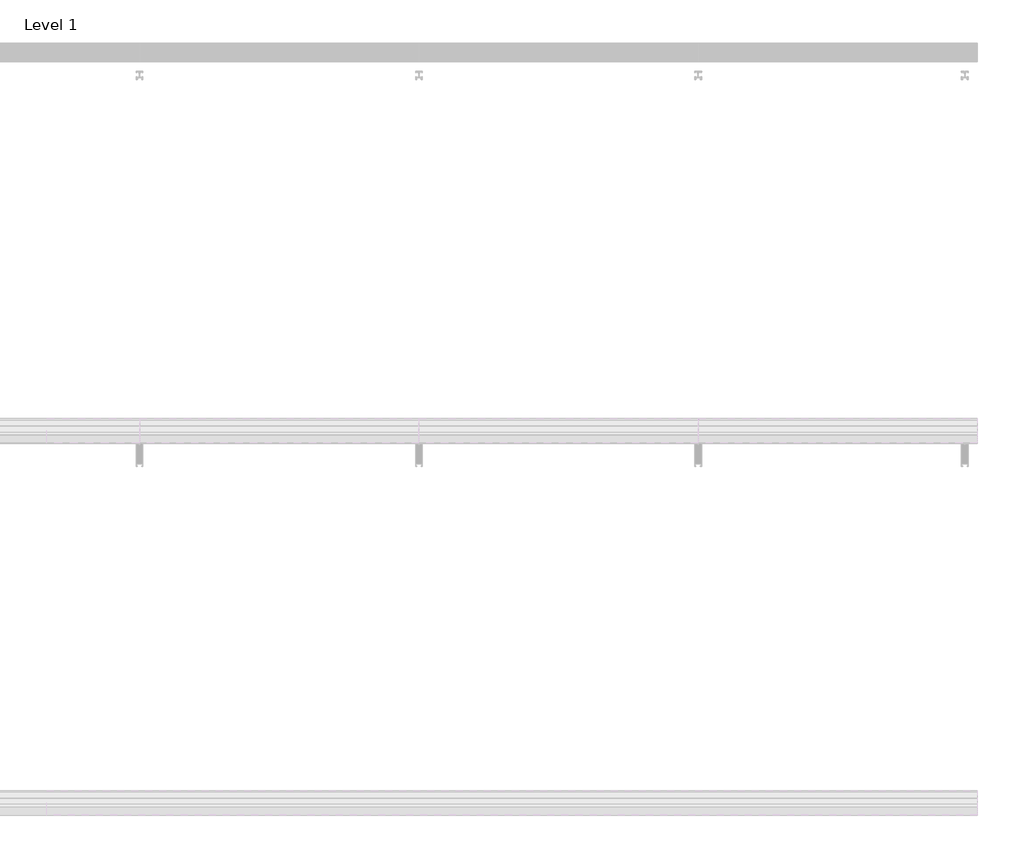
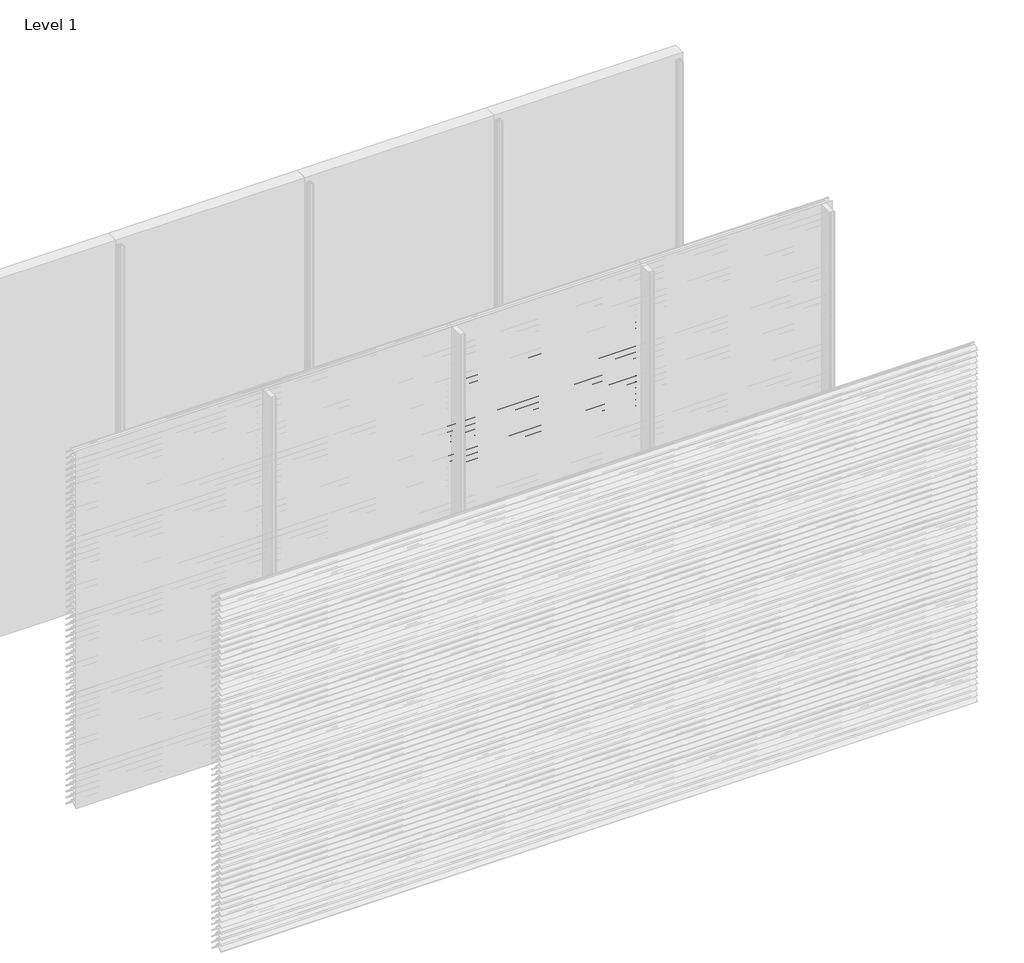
# One storey, part 31 of 173: 17 proxies.
"""IFC4 building model written with IfcOpenShell, lengths in millimetres."""

from ifc_helpers import new_model, si_unit, point, frame, frame_2d, origin, place, context, project, spatial, polyline, circle_curve, trimmed, segment, composite_curve, outline, extrude, element, save

model = new_model("IFC4")

# Units and contexts
model_context = context("Model", 3, world=origin())
ifc_project = project(units=[si_unit("LENGTHUNIT", "METRE", prefix="MILLI")], contexts=[model_context])

# Site, building, storey
site = spatial("IfcSite", under=ifc_project)
building = spatial("IfcBuilding", under=site)
storey = spatial("IfcBuildingStorey", under=building, Name="Level 1", Elevation=0.0)

# Proxies
placement = place(None, origin())
element("IfcBuildingElementProxy", 1, Name="Wall Sweeps", at=placement, inside=storey, context=model_context, shape_type="SweptSolid", body=[
    extrude(outline(composite_curve([segment(polyline([(-47998.0, 2459.1474905), (-47998.0, 2461.6227417)]), True, "CONTINUOUS"), segment(trimmed(circle_curve(frame_2d((-47951.2682172, 2416.2200208)), 65.1557103), [point((-47998.0, 2461.6227417))], [point((-47954.4014323, 2481.3003524))], False, "CARTESIAN"), True, "CONTINUOUS"), segment(polyline([(-47954.4014323, 2481.3003524), (-47934.8315836, 2481.3003524)]), True, "CONTINUOUS"), segment(trimmed(circle_curve(frame_2d((-47732.7329489, 2628.5533172)), 250.0545817), [point((-47934.8315836, 2481.3003524))], [point((-47941.4452143, 2490.8344583))], False, "CARTESIAN"), True, "CONTINUOUS"), segment(trimmed(circle_curve(frame_2d((-47953.2981792, 2485.1737835)), 13.1352966), [point((-47941.4452143, 2490.8344583))], [point((-47953.8171475, 2498.298824))], True, "CARTESIAN"), True, "CONTINUOUS"), segment(polyline([(-47953.8171475, 2498.298824), (-47953.8171475, 2500.0)]), True, "CONTINUOUS"), segment(trimmed(circle_curve(frame_2d((-47953.2981792, 2485.1737835)), 14.8352966), [point((-47953.8171475, 2500.0))], [point((-47939.9637661, 2491.6760487))], False, "CARTESIAN"), True, "CONTINUOUS"), segment(trimmed(circle_curve(frame_2d((-47732.7329489, 2628.5533172)), 248.3545817), [point((-47939.9637661, 2491.6760487))], [point((-47873.8787895, 2424.2059416))], True, "CARTESIAN"), True, "CONTINUOUS"), segment(trimmed(circle_curve(frame_2d((-47883.8147537, 2411.6649442)), 16.0), [point((-47873.8787895, 2424.2059416))], [point((-47867.8648347, 2410.4))], False, "CARTESIAN"), True, "CONTINUOUS"), segment(polyline([(-47867.8648347, 2410.4), (-47869.6712069, 2410.4)]), True, "CONTINUOUS"), segment(trimmed(circle_curve(frame_2d((-47883.8147537, 2411.6649442)), 14.2), [point((-47869.6712069, 2410.4))], [point((-47874.9518628, 2422.7594998))], True, "CARTESIAN"), True, "CONTINUOUS"), segment(trimmed(circle_curve(frame_2d((-47732.7329489, 2628.5533172)), 250.1545817), [point((-47874.9518628, 2422.7594998))], [point((-47933.7064024, 2479.6003524))], False, "CARTESIAN"), True, "CONTINUOUS"), segment(polyline([(-47933.7064024, 2479.6003524), (-47954.3602632, 2479.6003524)]), True, "CONTINUOUS"), segment(trimmed(circle_curve(frame_2d((-47951.2682172, 2416.2200208)), 63.4557103), [point((-47954.3602632, 2479.6003524))], [point((-47998.0, 2459.1474905))], True, "CARTESIAN"), True, "CONTINUOUS")], self_intersect=False)), frame((3000.0, 0.0, 0.0), z_axis=(1.0, 0.0, 0.0), x_axis=(0.0, 1.0, 0.0)), (0.0, 0.0, 1.0), 1500.0),
])
element("IfcBuildingElementProxy", 2, Name="Wall Sweeps", at=placement, inside=storey, context=model_context, shape_type="SweptSolid", body=[
    extrude(outline(composite_curve([segment(polyline([(-47998.0, 2409.1474905), (-47998.0, 2411.6227417)]), True, "CONTINUOUS"), segment(trimmed(circle_curve(frame_2d((-47951.2682172, 2366.2200208)), 65.1557103), [point((-47998.0, 2411.6227417))], [point((-47954.4014323, 2431.3003524))], False, "CARTESIAN"), True, "CONTINUOUS"), segment(polyline([(-47954.4014323, 2431.3003524), (-47934.8315836, 2431.3003524)]), True, "CONTINUOUS"), segment(trimmed(circle_curve(frame_2d((-47732.7329489, 2578.5533172)), 250.0545817), [point((-47934.8315836, 2431.3003524))], [point((-47941.4452143, 2440.8344583))], False, "CARTESIAN"), True, "CONTINUOUS"), segment(trimmed(circle_curve(frame_2d((-47953.2981792, 2435.1737835)), 13.1352966), [point((-47941.4452143, 2440.8344583))], [point((-47953.8171475, 2448.298824))], True, "CARTESIAN"), True, "CONTINUOUS"), segment(polyline([(-47953.8171475, 2448.298824), (-47953.8171475, 2450.0)]), True, "CONTINUOUS"), segment(trimmed(circle_curve(frame_2d((-47953.2981792, 2435.1737835)), 14.8352966), [point((-47953.8171475, 2450.0))], [point((-47939.9637661, 2441.6760487))], False, "CARTESIAN"), True, "CONTINUOUS"), segment(trimmed(circle_curve(frame_2d((-47732.7329489, 2578.5533172)), 248.3545817), [point((-47939.9637661, 2441.6760487))], [point((-47873.8787895, 2374.2059416))], True, "CARTESIAN"), True, "CONTINUOUS"), segment(trimmed(circle_curve(frame_2d((-47883.8147537, 2361.6649442)), 16.0), [point((-47873.8787895, 2374.2059416))], [point((-47867.8648347, 2360.4))], False, "CARTESIAN"), True, "CONTINUOUS"), segment(polyline([(-47867.8648347, 2360.4), (-47869.6712069, 2360.4)]), True, "CONTINUOUS"), segment(trimmed(circle_curve(frame_2d((-47883.8147537, 2361.6649442)), 14.2), [point((-47869.6712069, 2360.4))], [point((-47874.9518628, 2372.7594998))], True, "CARTESIAN"), True, "CONTINUOUS"), segment(trimmed(circle_curve(frame_2d((-47732.7329489, 2578.5533172)), 250.1545817), [point((-47874.9518628, 2372.7594998))], [point((-47933.7064024, 2429.6003524))], False, "CARTESIAN"), True, "CONTINUOUS"), segment(polyline([(-47933.7064024, 2429.6003524), (-47954.3602632, 2429.6003524)]), True, "CONTINUOUS"), segment(trimmed(circle_curve(frame_2d((-47951.2682172, 2366.2200208)), 63.4557103), [point((-47954.3602632, 2429.6003524))], [point((-47998.0, 2409.1474905))], True, "CARTESIAN"), True, "CONTINUOUS")], self_intersect=False)), frame((3000.0, 0.0, 0.0), z_axis=(1.0, 0.0, 0.0), x_axis=(0.0, 1.0, 0.0)), (0.0, 0.0, 1.0), 1500.0),
])
element("IfcBuildingElementProxy", 3, Name="Wall Sweeps", at=placement, inside=storey, context=model_context, shape_type="SweptSolid", body=[
    extrude(outline(composite_curve([segment(polyline([(-47998.0, 2359.1474905), (-47998.0, 2361.6227417)]), True, "CONTINUOUS"), segment(trimmed(circle_curve(frame_2d((-47951.2682172, 2316.2200208)), 65.1557103), [point((-47998.0, 2361.6227417))], [point((-47954.4014323, 2381.3003524))], False, "CARTESIAN"), True, "CONTINUOUS"), segment(polyline([(-47954.4014323, 2381.3003524), (-47934.8315836, 2381.3003524)]), True, "CONTINUOUS"), segment(trimmed(circle_curve(frame_2d((-47732.7329489, 2528.5533172)), 250.0545817), [point((-47934.8315836, 2381.3003524))], [point((-47941.4452143, 2390.8344583))], False, "CARTESIAN"), True, "CONTINUOUS"), segment(trimmed(circle_curve(frame_2d((-47953.2981792, 2385.1737835)), 13.1352966), [point((-47941.4452143, 2390.8344583))], [point((-47953.8171475, 2398.298824))], True, "CARTESIAN"), True, "CONTINUOUS"), segment(polyline([(-47953.8171475, 2398.298824), (-47953.8171475, 2400.0)]), True, "CONTINUOUS"), segment(trimmed(circle_curve(frame_2d((-47953.2981792, 2385.1737835)), 14.8352966), [point((-47953.8171475, 2400.0))], [point((-47939.9637661, 2391.6760487))], False, "CARTESIAN"), True, "CONTINUOUS"), segment(trimmed(circle_curve(frame_2d((-47732.7329489, 2528.5533172)), 248.3545817), [point((-47939.9637661, 2391.6760487))], [point((-47873.8787895, 2324.2059416))], True, "CARTESIAN"), True, "CONTINUOUS"), segment(trimmed(circle_curve(frame_2d((-47883.8147537, 2311.6649442)), 16.0), [point((-47873.8787895, 2324.2059416))], [point((-47867.8648347, 2310.4))], False, "CARTESIAN"), True, "CONTINUOUS"), segment(polyline([(-47867.8648347, 2310.4), (-47869.6712069, 2310.4)]), True, "CONTINUOUS"), segment(trimmed(circle_curve(frame_2d((-47883.8147537, 2311.6649442)), 14.2), [point((-47869.6712069, 2310.4))], [point((-47874.9518628, 2322.7594998))], True, "CARTESIAN"), True, "CONTINUOUS"), segment(trimmed(circle_curve(frame_2d((-47732.7329489, 2528.5533172)), 250.1545817), [point((-47874.9518628, 2322.7594998))], [point((-47933.7064024, 2379.6003524))], False, "CARTESIAN"), True, "CONTINUOUS"), segment(polyline([(-47933.7064024, 2379.6003524), (-47954.3602632, 2379.6003524)]), True, "CONTINUOUS"), segment(trimmed(circle_curve(frame_2d((-47951.2682172, 2316.2200208)), 63.4557103), [point((-47954.3602632, 2379.6003524))], [point((-47998.0, 2359.1474905))], True, "CARTESIAN"), True, "CONTINUOUS")], self_intersect=False)), frame((3000.0, 0.0, 0.0), z_axis=(1.0, 0.0, 0.0), x_axis=(0.0, 1.0, 0.0)), (0.0, 0.0, 1.0), 1500.0),
])
element("IfcBuildingElementProxy", 4, Name="Wall Sweeps", at=placement, inside=storey, context=model_context, shape_type="SweptSolid", body=[
    extrude(outline(composite_curve([segment(polyline([(-47998.0, 2309.1474905), (-47998.0, 2311.6227417)]), True, "CONTINUOUS"), segment(trimmed(circle_curve(frame_2d((-47951.2682172, 2266.2200208)), 65.1557103), [point((-47998.0, 2311.6227417))], [point((-47954.4014323, 2331.3003524))], False, "CARTESIAN"), True, "CONTINUOUS"), segment(polyline([(-47954.4014323, 2331.3003524), (-47934.8315836, 2331.3003524)]), True, "CONTINUOUS"), segment(trimmed(circle_curve(frame_2d((-47732.7329489, 2478.5533172)), 250.0545817), [point((-47934.8315836, 2331.3003524))], [point((-47941.4452143, 2340.8344583))], False, "CARTESIAN"), True, "CONTINUOUS"), segment(trimmed(circle_curve(frame_2d((-47953.2981792, 2335.1737835)), 13.1352966), [point((-47941.4452143, 2340.8344583))], [point((-47953.8171475, 2348.298824))], True, "CARTESIAN"), True, "CONTINUOUS"), segment(polyline([(-47953.8171475, 2348.298824), (-47953.8171475, 2350.0)]), True, "CONTINUOUS"), segment(trimmed(circle_curve(frame_2d((-47953.2981792, 2335.1737835)), 14.8352966), [point((-47953.8171475, 2350.0))], [point((-47939.9637661, 2341.6760487))], False, "CARTESIAN"), True, "CONTINUOUS"), segment(trimmed(circle_curve(frame_2d((-47732.7329489, 2478.5533172)), 248.3545817), [point((-47939.9637661, 2341.6760487))], [point((-47873.8787895, 2274.2059416))], True, "CARTESIAN"), True, "CONTINUOUS"), segment(trimmed(circle_curve(frame_2d((-47883.8147537, 2261.6649442)), 16.0), [point((-47873.8787895, 2274.2059416))], [point((-47867.8648347, 2260.4))], False, "CARTESIAN"), True, "CONTINUOUS"), segment(polyline([(-47867.8648347, 2260.4), (-47869.6712069, 2260.4)]), True, "CONTINUOUS"), segment(trimmed(circle_curve(frame_2d((-47883.8147537, 2261.6649442)), 14.2), [point((-47869.6712069, 2260.4))], [point((-47874.9518628, 2272.7594998))], True, "CARTESIAN"), True, "CONTINUOUS"), segment(trimmed(circle_curve(frame_2d((-47732.7329489, 2478.5533172)), 250.1545817), [point((-47874.9518628, 2272.7594998))], [point((-47933.7064024, 2329.6003524))], False, "CARTESIAN"), True, "CONTINUOUS"), segment(polyline([(-47933.7064024, 2329.6003524), (-47954.3602632, 2329.6003524)]), True, "CONTINUOUS"), segment(trimmed(circle_curve(frame_2d((-47951.2682172, 2266.2200208)), 63.4557103), [point((-47954.3602632, 2329.6003524))], [point((-47998.0, 2309.1474905))], True, "CARTESIAN"), True, "CONTINUOUS")], self_intersect=False)), frame((3000.0, 0.0, 0.0), z_axis=(1.0, 0.0, 0.0), x_axis=(0.0, 1.0, 0.0)), (0.0, 0.0, 1.0), 1500.0),
])
element("IfcBuildingElementProxy", 5, Name="Wall Sweeps", at=placement, inside=storey, context=model_context, shape_type="SweptSolid", body=[
    extrude(outline(composite_curve([segment(polyline([(-47998.0, 2259.1474905), (-47998.0, 2261.6227417)]), True, "CONTINUOUS"), segment(trimmed(circle_curve(frame_2d((-47951.2682172, 2216.2200208)), 65.1557103), [point((-47998.0, 2261.6227417))], [point((-47954.4014323, 2281.3003524))], False, "CARTESIAN"), True, "CONTINUOUS"), segment(polyline([(-47954.4014323, 2281.3003524), (-47934.8315836, 2281.3003524)]), True, "CONTINUOUS"), segment(trimmed(circle_curve(frame_2d((-47732.7329489, 2428.5533172)), 250.0545817), [point((-47934.8315836, 2281.3003524))], [point((-47941.4452143, 2290.8344583))], False, "CARTESIAN"), True, "CONTINUOUS"), segment(trimmed(circle_curve(frame_2d((-47953.2981792, 2285.1737835)), 13.1352966), [point((-47941.4452143, 2290.8344583))], [point((-47953.8171475, 2298.298824))], True, "CARTESIAN"), True, "CONTINUOUS"), segment(polyline([(-47953.8171475, 2298.298824), (-47953.8171475, 2300.0)]), True, "CONTINUOUS"), segment(trimmed(circle_curve(frame_2d((-47953.2981792, 2285.1737835)), 14.8352966), [point((-47953.8171475, 2300.0))], [point((-47939.9637661, 2291.6760487))], False, "CARTESIAN"), True, "CONTINUOUS"), segment(trimmed(circle_curve(frame_2d((-47732.7329489, 2428.5533172)), 248.3545817), [point((-47939.9637661, 2291.6760487))], [point((-47873.8787895, 2224.2059416))], True, "CARTESIAN"), True, "CONTINUOUS"), segment(trimmed(circle_curve(frame_2d((-47883.8147537, 2211.6649442)), 16.0), [point((-47873.8787895, 2224.2059416))], [point((-47867.8648347, 2210.4))], False, "CARTESIAN"), True, "CONTINUOUS"), segment(polyline([(-47867.8648347, 2210.4), (-47869.6712069, 2210.4)]), True, "CONTINUOUS"), segment(trimmed(circle_curve(frame_2d((-47883.8147537, 2211.6649442)), 14.2), [point((-47869.6712069, 2210.4))], [point((-47874.9518628, 2222.7594998))], True, "CARTESIAN"), True, "CONTINUOUS"), segment(trimmed(circle_curve(frame_2d((-47732.7329489, 2428.5533172)), 250.1545817), [point((-47874.9518628, 2222.7594998))], [point((-47933.7064024, 2279.6003524))], False, "CARTESIAN"), True, "CONTINUOUS"), segment(polyline([(-47933.7064024, 2279.6003524), (-47954.3602632, 2279.6003524)]), True, "CONTINUOUS"), segment(trimmed(circle_curve(frame_2d((-47951.2682172, 2216.2200208)), 63.4557103), [point((-47954.3602632, 2279.6003524))], [point((-47998.0, 2259.1474905))], True, "CARTESIAN"), True, "CONTINUOUS")], self_intersect=False)), frame((3000.0, 0.0, 0.0), z_axis=(1.0, 0.0, 0.0), x_axis=(0.0, 1.0, 0.0)), (0.0, 0.0, 1.0), 1500.0),
])
element("IfcBuildingElementProxy", 6, Name="Wall Sweeps", at=placement, inside=storey, context=model_context, shape_type="SweptSolid", body=[
    extrude(outline(composite_curve([segment(polyline([(-47998.0, 2209.1474905), (-47998.0, 2211.6227417)]), True, "CONTINUOUS"), segment(trimmed(circle_curve(frame_2d((-47951.2682172, 2166.2200208)), 65.1557103), [point((-47998.0, 2211.6227417))], [point((-47954.4014323, 2231.3003524))], False, "CARTESIAN"), True, "CONTINUOUS"), segment(polyline([(-47954.4014323, 2231.3003524), (-47934.8315836, 2231.3003524)]), True, "CONTINUOUS"), segment(trimmed(circle_curve(frame_2d((-47732.7329489, 2378.5533172)), 250.0545817), [point((-47934.8315836, 2231.3003524))], [point((-47941.4452143, 2240.8344583))], False, "CARTESIAN"), True, "CONTINUOUS"), segment(trimmed(circle_curve(frame_2d((-47953.2981792, 2235.1737835)), 13.1352966), [point((-47941.4452143, 2240.8344583))], [point((-47953.8171475, 2248.298824))], True, "CARTESIAN"), True, "CONTINUOUS"), segment(polyline([(-47953.8171475, 2248.298824), (-47953.8171475, 2250.0)]), True, "CONTINUOUS"), segment(trimmed(circle_curve(frame_2d((-47953.2981792, 2235.1737835)), 14.8352966), [point((-47953.8171475, 2250.0))], [point((-47939.9637661, 2241.6760487))], False, "CARTESIAN"), True, "CONTINUOUS"), segment(trimmed(circle_curve(frame_2d((-47732.7329489, 2378.5533172)), 248.3545817), [point((-47939.9637661, 2241.6760487))], [point((-47873.8787895, 2174.2059416))], True, "CARTESIAN"), True, "CONTINUOUS"), segment(trimmed(circle_curve(frame_2d((-47883.8147537, 2161.6649442)), 16.0), [point((-47873.8787895, 2174.2059416))], [point((-47867.8648347, 2160.4))], False, "CARTESIAN"), True, "CONTINUOUS"), segment(polyline([(-47867.8648347, 2160.4), (-47869.6712069, 2160.4)]), True, "CONTINUOUS"), segment(trimmed(circle_curve(frame_2d((-47883.8147537, 2161.6649442)), 14.2), [point((-47869.6712069, 2160.4))], [point((-47874.9518628, 2172.7594998))], True, "CARTESIAN"), True, "CONTINUOUS"), segment(trimmed(circle_curve(frame_2d((-47732.7329489, 2378.5533172)), 250.1545817), [point((-47874.9518628, 2172.7594998))], [point((-47933.7064024, 2229.6003524))], False, "CARTESIAN"), True, "CONTINUOUS"), segment(polyline([(-47933.7064024, 2229.6003524), (-47954.3602632, 2229.6003524)]), True, "CONTINUOUS"), segment(trimmed(circle_curve(frame_2d((-47951.2682172, 2166.2200208)), 63.4557103), [point((-47954.3602632, 2229.6003524))], [point((-47998.0, 2209.1474905))], True, "CARTESIAN"), True, "CONTINUOUS")], self_intersect=False)), frame((3000.0, 0.0, 0.0), z_axis=(1.0, 0.0, 0.0), x_axis=(0.0, 1.0, 0.0)), (0.0, 0.0, 1.0), 1500.0),
])
element("IfcBuildingElementProxy", 7, Name="Wall Sweeps", at=placement, inside=storey, context=model_context, shape_type="SweptSolid", body=[
    extrude(outline(composite_curve([segment(polyline([(-47998.0, 2159.1474905), (-47998.0, 2161.6227417)]), True, "CONTINUOUS"), segment(trimmed(circle_curve(frame_2d((-47951.2682172, 2116.2200208)), 65.1557103), [point((-47998.0, 2161.6227417))], [point((-47954.4014323, 2181.3003524))], False, "CARTESIAN"), True, "CONTINUOUS"), segment(polyline([(-47954.4014323, 2181.3003524), (-47934.8315836, 2181.3003524)]), True, "CONTINUOUS"), segment(trimmed(circle_curve(frame_2d((-47732.7329489, 2328.5533172)), 250.0545817), [point((-47934.8315836, 2181.3003524))], [point((-47941.4452143, 2190.8344583))], False, "CARTESIAN"), True, "CONTINUOUS"), segment(trimmed(circle_curve(frame_2d((-47953.2981792, 2185.1737835)), 13.1352966), [point((-47941.4452143, 2190.8344583))], [point((-47953.8171475, 2198.298824))], True, "CARTESIAN"), True, "CONTINUOUS"), segment(polyline([(-47953.8171475, 2198.298824), (-47953.8171475, 2200.0)]), True, "CONTINUOUS"), segment(trimmed(circle_curve(frame_2d((-47953.2981792, 2185.1737835)), 14.8352966), [point((-47953.8171475, 2200.0))], [point((-47939.9637661, 2191.6760487))], False, "CARTESIAN"), True, "CONTINUOUS"), segment(trimmed(circle_curve(frame_2d((-47732.7329489, 2328.5533172)), 248.3545817), [point((-47939.9637661, 2191.6760487))], [point((-47873.8787895, 2124.2059416))], True, "CARTESIAN"), True, "CONTINUOUS"), segment(trimmed(circle_curve(frame_2d((-47883.8147537, 2111.6649442)), 16.0), [point((-47873.8787895, 2124.2059416))], [point((-47867.8648347, 2110.4))], False, "CARTESIAN"), True, "CONTINUOUS"), segment(polyline([(-47867.8648347, 2110.4), (-47869.6712069, 2110.4)]), True, "CONTINUOUS"), segment(trimmed(circle_curve(frame_2d((-47883.8147537, 2111.6649442)), 14.2), [point((-47869.6712069, 2110.4))], [point((-47874.9518628, 2122.7594998))], True, "CARTESIAN"), True, "CONTINUOUS"), segment(trimmed(circle_curve(frame_2d((-47732.7329489, 2328.5533172)), 250.1545817), [point((-47874.9518628, 2122.7594998))], [point((-47933.7064024, 2179.6003524))], False, "CARTESIAN"), True, "CONTINUOUS"), segment(polyline([(-47933.7064024, 2179.6003524), (-47954.3602632, 2179.6003524)]), True, "CONTINUOUS"), segment(trimmed(circle_curve(frame_2d((-47951.2682172, 2116.2200208)), 63.4557103), [point((-47954.3602632, 2179.6003524))], [point((-47998.0, 2159.1474905))], True, "CARTESIAN"), True, "CONTINUOUS")], self_intersect=False)), frame((3000.0, 0.0, 0.0), z_axis=(1.0, 0.0, 0.0), x_axis=(0.0, 1.0, 0.0)), (0.0, 0.0, 1.0), 1500.0),
])
element("IfcBuildingElementProxy", 8, Name="Wall Sweeps", at=placement, inside=storey, context=model_context, shape_type="SweptSolid", body=[
    extrude(outline(composite_curve([segment(polyline([(-47998.0, 2109.1474905), (-47998.0, 2111.6227417)]), True, "CONTINUOUS"), segment(trimmed(circle_curve(frame_2d((-47951.2682172, 2066.2200208)), 65.1557103), [point((-47998.0, 2111.6227417))], [point((-47954.4014323, 2131.3003524))], False, "CARTESIAN"), True, "CONTINUOUS"), segment(polyline([(-47954.4014323, 2131.3003524), (-47934.8315836, 2131.3003524)]), True, "CONTINUOUS"), segment(trimmed(circle_curve(frame_2d((-47732.7329489, 2278.5533172)), 250.0545817), [point((-47934.8315836, 2131.3003524))], [point((-47941.4452143, 2140.8344583))], False, "CARTESIAN"), True, "CONTINUOUS"), segment(trimmed(circle_curve(frame_2d((-47953.2981792, 2135.1737835)), 13.1352966), [point((-47941.4452143, 2140.8344583))], [point((-47953.8171475, 2148.298824))], True, "CARTESIAN"), True, "CONTINUOUS"), segment(polyline([(-47953.8171475, 2148.298824), (-47953.8171475, 2150.0)]), True, "CONTINUOUS"), segment(trimmed(circle_curve(frame_2d((-47953.2981792, 2135.1737835)), 14.8352966), [point((-47953.8171475, 2150.0))], [point((-47939.9637661, 2141.6760487))], False, "CARTESIAN"), True, "CONTINUOUS"), segment(trimmed(circle_curve(frame_2d((-47732.7329489, 2278.5533172)), 248.3545817), [point((-47939.9637661, 2141.6760487))], [point((-47873.8787895, 2074.2059416))], True, "CARTESIAN"), True, "CONTINUOUS"), segment(trimmed(circle_curve(frame_2d((-47883.8147537, 2061.6649442)), 16.0), [point((-47873.8787895, 2074.2059416))], [point((-47867.8648347, 2060.4))], False, "CARTESIAN"), True, "CONTINUOUS"), segment(polyline([(-47867.8648347, 2060.4), (-47869.6712069, 2060.4)]), True, "CONTINUOUS"), segment(trimmed(circle_curve(frame_2d((-47883.8147537, 2061.6649442)), 14.2), [point((-47869.6712069, 2060.4))], [point((-47874.9518628, 2072.7594998))], True, "CARTESIAN"), True, "CONTINUOUS"), segment(trimmed(circle_curve(frame_2d((-47732.7329489, 2278.5533172)), 250.1545817), [point((-47874.9518628, 2072.7594998))], [point((-47933.7064024, 2129.6003524))], False, "CARTESIAN"), True, "CONTINUOUS"), segment(polyline([(-47933.7064024, 2129.6003524), (-47954.3602632, 2129.6003524)]), True, "CONTINUOUS"), segment(trimmed(circle_curve(frame_2d((-47951.2682172, 2066.2200208)), 63.4557103), [point((-47954.3602632, 2129.6003524))], [point((-47998.0, 2109.1474905))], True, "CARTESIAN"), True, "CONTINUOUS")], self_intersect=False)), frame((3000.0, 0.0, 0.0), z_axis=(1.0, 0.0, 0.0), x_axis=(0.0, 1.0, 0.0)), (0.0, 0.0, 1.0), 1500.0),
])
element("IfcBuildingElementProxy", 9, Name="Wall Sweeps", at=placement, inside=storey, context=model_context, shape_type="SweptSolid", body=[
    extrude(outline(composite_curve([segment(polyline([(-47998.0, 2059.1474905), (-47998.0, 2061.6227417)]), True, "CONTINUOUS"), segment(trimmed(circle_curve(frame_2d((-47951.2682172, 2016.2200208)), 65.1557103), [point((-47998.0, 2061.6227417))], [point((-47954.4014323, 2081.3003524))], False, "CARTESIAN"), True, "CONTINUOUS"), segment(polyline([(-47954.4014323, 2081.3003524), (-47934.8315836, 2081.3003524)]), True, "CONTINUOUS"), segment(trimmed(circle_curve(frame_2d((-47732.7329489, 2228.5533172)), 250.0545817), [point((-47934.8315836, 2081.3003524))], [point((-47941.4452143, 2090.8344583))], False, "CARTESIAN"), True, "CONTINUOUS"), segment(trimmed(circle_curve(frame_2d((-47953.2981792, 2085.1737835)), 13.1352966), [point((-47941.4452143, 2090.8344583))], [point((-47953.8171475, 2098.298824))], True, "CARTESIAN"), True, "CONTINUOUS"), segment(polyline([(-47953.8171475, 2098.298824), (-47953.8171475, 2100.0)]), True, "CONTINUOUS"), segment(trimmed(circle_curve(frame_2d((-47953.2981792, 2085.1737835)), 14.8352966), [point((-47953.8171475, 2100.0))], [point((-47939.9637661, 2091.6760487))], False, "CARTESIAN"), True, "CONTINUOUS"), segment(trimmed(circle_curve(frame_2d((-47732.7329489, 2228.5533172)), 248.3545817), [point((-47939.9637661, 2091.6760487))], [point((-47873.8787895, 2024.2059416))], True, "CARTESIAN"), True, "CONTINUOUS"), segment(trimmed(circle_curve(frame_2d((-47883.8147537, 2011.6649442)), 16.0), [point((-47873.8787895, 2024.2059416))], [point((-47867.8648347, 2010.4))], False, "CARTESIAN"), True, "CONTINUOUS"), segment(polyline([(-47867.8648347, 2010.4), (-47869.6712069, 2010.4)]), True, "CONTINUOUS"), segment(trimmed(circle_curve(frame_2d((-47883.8147537, 2011.6649442)), 14.2), [point((-47869.6712069, 2010.4))], [point((-47874.9518628, 2022.7594998))], True, "CARTESIAN"), True, "CONTINUOUS"), segment(trimmed(circle_curve(frame_2d((-47732.7329489, 2228.5533172)), 250.1545817), [point((-47874.9518628, 2022.7594998))], [point((-47933.7064024, 2079.6003524))], False, "CARTESIAN"), True, "CONTINUOUS"), segment(polyline([(-47933.7064024, 2079.6003524), (-47954.3602632, 2079.6003524)]), True, "CONTINUOUS"), segment(trimmed(circle_curve(frame_2d((-47951.2682172, 2016.2200208)), 63.4557103), [point((-47954.3602632, 2079.6003524))], [point((-47998.0, 2059.1474905))], True, "CARTESIAN"), True, "CONTINUOUS")], self_intersect=False)), frame((3000.0, 0.0, 0.0), z_axis=(1.0, 0.0, 0.0), x_axis=(0.0, 1.0, 0.0)), (0.0, 0.0, 1.0), 1500.0),
])
element("IfcBuildingElementProxy", 10, Name="Wall Sweeps", at=placement, inside=storey, context=model_context, shape_type="SweptSolid", body=[
    extrude(outline(composite_curve([segment(polyline([(-47998.0, 2009.1474905), (-47998.0, 2011.6227417)]), True, "CONTINUOUS"), segment(trimmed(circle_curve(frame_2d((-47951.2682172, 1966.2200208)), 65.1557103), [point((-47998.0, 2011.6227417))], [point((-47954.4014323, 2031.3003524))], False, "CARTESIAN"), True, "CONTINUOUS"), segment(polyline([(-47954.4014323, 2031.3003524), (-47934.8315836, 2031.3003524)]), True, "CONTINUOUS"), segment(trimmed(circle_curve(frame_2d((-47732.7329489, 2178.5533172)), 250.0545817), [point((-47934.8315836, 2031.3003524))], [point((-47941.4452143, 2040.8344583))], False, "CARTESIAN"), True, "CONTINUOUS"), segment(trimmed(circle_curve(frame_2d((-47953.2981792, 2035.1737835)), 13.1352966), [point((-47941.4452143, 2040.8344583))], [point((-47953.8171475, 2048.298824))], True, "CARTESIAN"), True, "CONTINUOUS"), segment(polyline([(-47953.8171475, 2048.298824), (-47953.8171475, 2050.0)]), True, "CONTINUOUS"), segment(trimmed(circle_curve(frame_2d((-47953.2981792, 2035.1737835)), 14.8352966), [point((-47953.8171475, 2050.0))], [point((-47939.9637661, 2041.6760487))], False, "CARTESIAN"), True, "CONTINUOUS"), segment(trimmed(circle_curve(frame_2d((-47732.7329489, 2178.5533172)), 248.3545817), [point((-47939.9637661, 2041.6760487))], [point((-47873.8787895, 1974.2059416))], True, "CARTESIAN"), True, "CONTINUOUS"), segment(trimmed(circle_curve(frame_2d((-47883.8147537, 1961.6649442)), 16.0), [point((-47873.8787895, 1974.2059416))], [point((-47867.8648347, 1960.4))], False, "CARTESIAN"), True, "CONTINUOUS"), segment(polyline([(-47867.8648347, 1960.4), (-47869.6712069, 1960.4)]), True, "CONTINUOUS"), segment(trimmed(circle_curve(frame_2d((-47883.8147537, 1961.6649442)), 14.2), [point((-47869.6712069, 1960.4))], [point((-47874.9518628, 1972.7594998))], True, "CARTESIAN"), True, "CONTINUOUS"), segment(trimmed(circle_curve(frame_2d((-47732.7329489, 2178.5533172)), 250.1545817), [point((-47874.9518628, 1972.7594998))], [point((-47933.7064024, 2029.6003524))], False, "CARTESIAN"), True, "CONTINUOUS"), segment(polyline([(-47933.7064024, 2029.6003524), (-47954.3602632, 2029.6003524)]), True, "CONTINUOUS"), segment(trimmed(circle_curve(frame_2d((-47951.2682172, 1966.2200208)), 63.4557103), [point((-47954.3602632, 2029.6003524))], [point((-47998.0, 2009.1474905))], True, "CARTESIAN"), True, "CONTINUOUS")], self_intersect=False)), frame((3000.0, 0.0, 0.0), z_axis=(1.0, 0.0, 0.0), x_axis=(0.0, 1.0, 0.0)), (0.0, 0.0, 1.0), 1500.0),
])
element("IfcBuildingElementProxy", 11, Name="Wall Sweeps", at=placement, inside=storey, context=model_context, shape_type="SweptSolid", body=[
    extrude(outline(composite_curve([segment(polyline([(-47998.0, 1959.1474905), (-47998.0, 1961.6227417)]), True, "CONTINUOUS"), segment(trimmed(circle_curve(frame_2d((-47951.2682172, 1916.2200208)), 65.1557103), [point((-47998.0, 1961.6227417))], [point((-47954.4014323, 1981.3003524))], False, "CARTESIAN"), True, "CONTINUOUS"), segment(polyline([(-47954.4014323, 1981.3003524), (-47934.8315836, 1981.3003524)]), True, "CONTINUOUS"), segment(trimmed(circle_curve(frame_2d((-47732.7329489, 2128.5533172)), 250.0545817), [point((-47934.8315836, 1981.3003524))], [point((-47941.4452143, 1990.8344583))], False, "CARTESIAN"), True, "CONTINUOUS"), segment(trimmed(circle_curve(frame_2d((-47953.2981792, 1985.1737835)), 13.1352966), [point((-47941.4452143, 1990.8344583))], [point((-47953.8171475, 1998.298824))], True, "CARTESIAN"), True, "CONTINUOUS"), segment(polyline([(-47953.8171475, 1998.298824), (-47953.8171475, 2000.0)]), True, "CONTINUOUS"), segment(trimmed(circle_curve(frame_2d((-47953.2981792, 1985.1737835)), 14.8352966), [point((-47953.8171475, 2000.0))], [point((-47939.9637661, 1991.6760487))], False, "CARTESIAN"), True, "CONTINUOUS"), segment(trimmed(circle_curve(frame_2d((-47732.7329489, 2128.5533172)), 248.3545817), [point((-47939.9637661, 1991.6760487))], [point((-47873.8787895, 1924.2059416))], True, "CARTESIAN"), True, "CONTINUOUS"), segment(trimmed(circle_curve(frame_2d((-47883.8147537, 1911.6649442)), 16.0), [point((-47873.8787895, 1924.2059416))], [point((-47867.8648347, 1910.4))], False, "CARTESIAN"), True, "CONTINUOUS"), segment(polyline([(-47867.8648347, 1910.4), (-47869.6712069, 1910.4)]), True, "CONTINUOUS"), segment(trimmed(circle_curve(frame_2d((-47883.8147537, 1911.6649442)), 14.2), [point((-47869.6712069, 1910.4))], [point((-47874.9518628, 1922.7594998))], True, "CARTESIAN"), True, "CONTINUOUS"), segment(trimmed(circle_curve(frame_2d((-47732.7329489, 2128.5533172)), 250.1545817), [point((-47874.9518628, 1922.7594998))], [point((-47933.7064024, 1979.6003524))], False, "CARTESIAN"), True, "CONTINUOUS"), segment(polyline([(-47933.7064024, 1979.6003524), (-47954.3602632, 1979.6003524)]), True, "CONTINUOUS"), segment(trimmed(circle_curve(frame_2d((-47951.2682172, 1916.2200208)), 63.4557103), [point((-47954.3602632, 1979.6003524))], [point((-47998.0, 1959.1474905))], True, "CARTESIAN"), True, "CONTINUOUS")], self_intersect=False)), frame((3000.0, 0.0, 0.0), z_axis=(1.0, 0.0, 0.0), x_axis=(0.0, 1.0, 0.0)), (0.0, 0.0, 1.0), 1500.0),
])
element("IfcBuildingElementProxy", 12, Name="Wall Sweeps", at=placement, inside=storey, context=model_context, shape_type="SweptSolid", body=[
    extrude(outline(composite_curve([segment(polyline([(-47998.0, 1909.1474905), (-47998.0, 1911.6227417)]), True, "CONTINUOUS"), segment(trimmed(circle_curve(frame_2d((-47951.2682172, 1866.2200208)), 65.1557103), [point((-47998.0, 1911.6227417))], [point((-47954.4014323, 1931.3003524))], False, "CARTESIAN"), True, "CONTINUOUS"), segment(polyline([(-47954.4014323, 1931.3003524), (-47934.8315836, 1931.3003524)]), True, "CONTINUOUS"), segment(trimmed(circle_curve(frame_2d((-47732.7329489, 2078.5533172)), 250.0545817), [point((-47934.8315836, 1931.3003524))], [point((-47941.4452143, 1940.8344583))], False, "CARTESIAN"), True, "CONTINUOUS"), segment(trimmed(circle_curve(frame_2d((-47953.2981792, 1935.1737835)), 13.1352966), [point((-47941.4452143, 1940.8344583))], [point((-47953.8171475, 1948.298824))], True, "CARTESIAN"), True, "CONTINUOUS"), segment(polyline([(-47953.8171475, 1948.298824), (-47953.8171475, 1950.0)]), True, "CONTINUOUS"), segment(trimmed(circle_curve(frame_2d((-47953.2981792, 1935.1737835)), 14.8352966), [point((-47953.8171475, 1950.0))], [point((-47939.9637661, 1941.6760487))], False, "CARTESIAN"), True, "CONTINUOUS"), segment(trimmed(circle_curve(frame_2d((-47732.7329489, 2078.5533172)), 248.3545817), [point((-47939.9637661, 1941.6760487))], [point((-47873.8787895, 1874.2059416))], True, "CARTESIAN"), True, "CONTINUOUS"), segment(trimmed(circle_curve(frame_2d((-47883.8147537, 1861.6649442)), 16.0), [point((-47873.8787895, 1874.2059416))], [point((-47867.8648347, 1860.4))], False, "CARTESIAN"), True, "CONTINUOUS"), segment(polyline([(-47867.8648347, 1860.4), (-47869.6712069, 1860.4)]), True, "CONTINUOUS"), segment(trimmed(circle_curve(frame_2d((-47883.8147537, 1861.6649442)), 14.2), [point((-47869.6712069, 1860.4))], [point((-47874.9518628, 1872.7594998))], True, "CARTESIAN"), True, "CONTINUOUS"), segment(trimmed(circle_curve(frame_2d((-47732.7329489, 2078.5533172)), 250.1545817), [point((-47874.9518628, 1872.7594998))], [point((-47933.7064024, 1929.6003524))], False, "CARTESIAN"), True, "CONTINUOUS"), segment(polyline([(-47933.7064024, 1929.6003524), (-47954.3602632, 1929.6003524)]), True, "CONTINUOUS"), segment(trimmed(circle_curve(frame_2d((-47951.2682172, 1866.2200208)), 63.4557103), [point((-47954.3602632, 1929.6003524))], [point((-47998.0, 1909.1474905))], True, "CARTESIAN"), True, "CONTINUOUS")], self_intersect=False)), frame((3000.0, 0.0, 0.0), z_axis=(1.0, 0.0, 0.0), x_axis=(0.0, 1.0, 0.0)), (0.0, 0.0, 1.0), 1500.0),
])
element("IfcBuildingElementProxy", 13, Name="Wall Sweeps", at=placement, inside=storey, context=model_context, shape_type="SweptSolid", body=[
    extrude(outline(composite_curve([segment(polyline([(-47998.0, 1859.1474905), (-47998.0, 1861.6227417)]), True, "CONTINUOUS"), segment(trimmed(circle_curve(frame_2d((-47951.2682172, 1816.2200208)), 65.1557103), [point((-47998.0, 1861.6227417))], [point((-47954.4014323, 1881.3003524))], False, "CARTESIAN"), True, "CONTINUOUS"), segment(polyline([(-47954.4014323, 1881.3003524), (-47934.8315836, 1881.3003524)]), True, "CONTINUOUS"), segment(trimmed(circle_curve(frame_2d((-47732.7329489, 2028.5533172)), 250.0545817), [point((-47934.8315836, 1881.3003524))], [point((-47941.4452143, 1890.8344583))], False, "CARTESIAN"), True, "CONTINUOUS"), segment(trimmed(circle_curve(frame_2d((-47953.2981792, 1885.1737835)), 13.1352966), [point((-47941.4452143, 1890.8344583))], [point((-47953.8171475, 1898.298824))], True, "CARTESIAN"), True, "CONTINUOUS"), segment(polyline([(-47953.8171475, 1898.298824), (-47953.8171475, 1900.0)]), True, "CONTINUOUS"), segment(trimmed(circle_curve(frame_2d((-47953.2981792, 1885.1737835)), 14.8352966), [point((-47953.8171475, 1900.0))], [point((-47939.9637661, 1891.6760487))], False, "CARTESIAN"), True, "CONTINUOUS"), segment(trimmed(circle_curve(frame_2d((-47732.7329489, 2028.5533172)), 248.3545817), [point((-47939.9637661, 1891.6760487))], [point((-47873.8787895, 1824.2059416))], True, "CARTESIAN"), True, "CONTINUOUS"), segment(trimmed(circle_curve(frame_2d((-47883.8147537, 1811.6649442)), 16.0), [point((-47873.8787895, 1824.2059416))], [point((-47867.8648347, 1810.4))], False, "CARTESIAN"), True, "CONTINUOUS"), segment(polyline([(-47867.8648347, 1810.4), (-47869.6712069, 1810.4)]), True, "CONTINUOUS"), segment(trimmed(circle_curve(frame_2d((-47883.8147537, 1811.6649442)), 14.2), [point((-47869.6712069, 1810.4))], [point((-47874.9518628, 1822.7594998))], True, "CARTESIAN"), True, "CONTINUOUS"), segment(trimmed(circle_curve(frame_2d((-47732.7329489, 2028.5533172)), 250.1545817), [point((-47874.9518628, 1822.7594998))], [point((-47933.7064024, 1879.6003524))], False, "CARTESIAN"), True, "CONTINUOUS"), segment(polyline([(-47933.7064024, 1879.6003524), (-47954.3602632, 1879.6003524)]), True, "CONTINUOUS"), segment(trimmed(circle_curve(frame_2d((-47951.2682172, 1816.2200208)), 63.4557103), [point((-47954.3602632, 1879.6003524))], [point((-47998.0, 1859.1474905))], True, "CARTESIAN"), True, "CONTINUOUS")], self_intersect=False)), frame((3000.0, 0.0, 0.0), z_axis=(1.0, 0.0, 0.0), x_axis=(0.0, 1.0, 0.0)), (0.0, 0.0, 1.0), 1500.0),
])
element("IfcBuildingElementProxy", 14, Name="Wall Sweeps", at=placement, inside=storey, context=model_context, shape_type="SweptSolid", body=[
    extrude(outline(composite_curve([segment(polyline([(-47998.0, 1809.1474905), (-47998.0, 1811.6227417)]), True, "CONTINUOUS"), segment(trimmed(circle_curve(frame_2d((-47951.2682172, 1766.2200208)), 65.1557103), [point((-47998.0, 1811.6227417))], [point((-47954.4014323, 1831.3003524))], False, "CARTESIAN"), True, "CONTINUOUS"), segment(polyline([(-47954.4014323, 1831.3003524), (-47934.8315836, 1831.3003524)]), True, "CONTINUOUS"), segment(trimmed(circle_curve(frame_2d((-47732.7329489, 1978.5533172)), 250.0545817), [point((-47934.8315836, 1831.3003524))], [point((-47941.4452143, 1840.8344583))], False, "CARTESIAN"), True, "CONTINUOUS"), segment(trimmed(circle_curve(frame_2d((-47953.2981792, 1835.1737835)), 13.1352966), [point((-47941.4452143, 1840.8344583))], [point((-47953.8171475, 1848.298824))], True, "CARTESIAN"), True, "CONTINUOUS"), segment(polyline([(-47953.8171475, 1848.298824), (-47953.8171475, 1850.0)]), True, "CONTINUOUS"), segment(trimmed(circle_curve(frame_2d((-47953.2981792, 1835.1737835)), 14.8352966), [point((-47953.8171475, 1850.0))], [point((-47939.9637661, 1841.6760487))], False, "CARTESIAN"), True, "CONTINUOUS"), segment(trimmed(circle_curve(frame_2d((-47732.7329489, 1978.5533172)), 248.3545817), [point((-47939.9637661, 1841.6760487))], [point((-47873.8787895, 1774.2059416))], True, "CARTESIAN"), True, "CONTINUOUS"), segment(trimmed(circle_curve(frame_2d((-47883.8147537, 1761.6649442)), 16.0), [point((-47873.8787895, 1774.2059416))], [point((-47867.8648347, 1760.4))], False, "CARTESIAN"), True, "CONTINUOUS"), segment(polyline([(-47867.8648347, 1760.4), (-47869.6712069, 1760.4)]), True, "CONTINUOUS"), segment(trimmed(circle_curve(frame_2d((-47883.8147537, 1761.6649442)), 14.2), [point((-47869.6712069, 1760.4))], [point((-47874.9518628, 1772.7594998))], True, "CARTESIAN"), True, "CONTINUOUS"), segment(trimmed(circle_curve(frame_2d((-47732.7329489, 1978.5533172)), 250.1545817), [point((-47874.9518628, 1772.7594998))], [point((-47933.7064024, 1829.6003524))], False, "CARTESIAN"), True, "CONTINUOUS"), segment(polyline([(-47933.7064024, 1829.6003524), (-47954.3602632, 1829.6003524)]), True, "CONTINUOUS"), segment(trimmed(circle_curve(frame_2d((-47951.2682172, 1766.2200208)), 63.4557103), [point((-47954.3602632, 1829.6003524))], [point((-47998.0, 1809.1474905))], True, "CARTESIAN"), True, "CONTINUOUS")], self_intersect=False)), frame((3000.0, 0.0, 0.0), z_axis=(1.0, 0.0, 0.0), x_axis=(0.0, 1.0, 0.0)), (0.0, 0.0, 1.0), 1500.0),
])
element("IfcBuildingElementProxy", 15, Name="Wall Sweeps", at=placement, inside=storey, context=model_context, shape_type="SweptSolid", body=[
    extrude(outline(composite_curve([segment(polyline([(-47998.0, 1759.1474905), (-47998.0, 1761.6227417)]), True, "CONTINUOUS"), segment(trimmed(circle_curve(frame_2d((-47951.2682172, 1716.2200208)), 65.1557103), [point((-47998.0, 1761.6227417))], [point((-47954.4014323, 1781.3003524))], False, "CARTESIAN"), True, "CONTINUOUS"), segment(polyline([(-47954.4014323, 1781.3003524), (-47934.8315836, 1781.3003524)]), True, "CONTINUOUS"), segment(trimmed(circle_curve(frame_2d((-47732.7329489, 1928.5533172)), 250.0545817), [point((-47934.8315836, 1781.3003524))], [point((-47941.4452143, 1790.8344583))], False, "CARTESIAN"), True, "CONTINUOUS"), segment(trimmed(circle_curve(frame_2d((-47953.2981792, 1785.1737835)), 13.1352966), [point((-47941.4452143, 1790.8344583))], [point((-47953.8171475, 1798.298824))], True, "CARTESIAN"), True, "CONTINUOUS"), segment(polyline([(-47953.8171475, 1798.298824), (-47953.8171475, 1800.0)]), True, "CONTINUOUS"), segment(trimmed(circle_curve(frame_2d((-47953.2981792, 1785.1737835)), 14.8352966), [point((-47953.8171475, 1800.0))], [point((-47939.9637661, 1791.6760487))], False, "CARTESIAN"), True, "CONTINUOUS"), segment(trimmed(circle_curve(frame_2d((-47732.7329489, 1928.5533172)), 248.3545817), [point((-47939.9637661, 1791.6760487))], [point((-47873.8787895, 1724.2059416))], True, "CARTESIAN"), True, "CONTINUOUS"), segment(trimmed(circle_curve(frame_2d((-47883.8147537, 1711.6649442)), 16.0), [point((-47873.8787895, 1724.2059416))], [point((-47867.8648347, 1710.4))], False, "CARTESIAN"), True, "CONTINUOUS"), segment(polyline([(-47867.8648347, 1710.4), (-47869.6712069, 1710.4)]), True, "CONTINUOUS"), segment(trimmed(circle_curve(frame_2d((-47883.8147537, 1711.6649442)), 14.2), [point((-47869.6712069, 1710.4))], [point((-47874.9518628, 1722.7594998))], True, "CARTESIAN"), True, "CONTINUOUS"), segment(trimmed(circle_curve(frame_2d((-47732.7329489, 1928.5533172)), 250.1545817), [point((-47874.9518628, 1722.7594998))], [point((-47933.7064024, 1779.6003524))], False, "CARTESIAN"), True, "CONTINUOUS"), segment(polyline([(-47933.7064024, 1779.6003524), (-47954.3602632, 1779.6003524)]), True, "CONTINUOUS"), segment(trimmed(circle_curve(frame_2d((-47951.2682172, 1716.2200208)), 63.4557103), [point((-47954.3602632, 1779.6003524))], [point((-47998.0, 1759.1474905))], True, "CARTESIAN"), True, "CONTINUOUS")], self_intersect=False)), frame((3000.0, 0.0, 0.0), z_axis=(1.0, 0.0, 0.0), x_axis=(0.0, 1.0, 0.0)), (0.0, 0.0, 1.0), 1500.0),
])
element("IfcBuildingElementProxy", 16, Name="Wall Sweeps", at=placement, inside=storey, context=model_context, shape_type="SweptSolid", body=[
    extrude(outline(composite_curve([segment(polyline([(-47998.0, 1709.1474905), (-47998.0, 1711.6227417)]), True, "CONTINUOUS"), segment(trimmed(circle_curve(frame_2d((-47951.2682172, 1666.2200208)), 65.1557103), [point((-47998.0, 1711.6227417))], [point((-47954.4014323, 1731.3003524))], False, "CARTESIAN"), True, "CONTINUOUS"), segment(polyline([(-47954.4014323, 1731.3003524), (-47934.8315836, 1731.3003524)]), True, "CONTINUOUS"), segment(trimmed(circle_curve(frame_2d((-47732.7329489, 1878.5533172)), 250.0545817), [point((-47934.8315836, 1731.3003524))], [point((-47941.4452143, 1740.8344583))], False, "CARTESIAN"), True, "CONTINUOUS"), segment(trimmed(circle_curve(frame_2d((-47953.2981792, 1735.1737835)), 13.1352966), [point((-47941.4452143, 1740.8344583))], [point((-47953.8171475, 1748.298824))], True, "CARTESIAN"), True, "CONTINUOUS"), segment(polyline([(-47953.8171475, 1748.298824), (-47953.8171475, 1750.0)]), True, "CONTINUOUS"), segment(trimmed(circle_curve(frame_2d((-47953.2981792, 1735.1737835)), 14.8352966), [point((-47953.8171475, 1750.0))], [point((-47939.9637661, 1741.6760487))], False, "CARTESIAN"), True, "CONTINUOUS"), segment(trimmed(circle_curve(frame_2d((-47732.7329489, 1878.5533172)), 248.3545817), [point((-47939.9637661, 1741.6760487))], [point((-47873.8787895, 1674.2059416))], True, "CARTESIAN"), True, "CONTINUOUS"), segment(trimmed(circle_curve(frame_2d((-47883.8147537, 1661.6649442)), 16.0), [point((-47873.8787895, 1674.2059416))], [point((-47867.8648347, 1660.4))], False, "CARTESIAN"), True, "CONTINUOUS"), segment(polyline([(-47867.8648347, 1660.4), (-47869.6712069, 1660.4)]), True, "CONTINUOUS"), segment(trimmed(circle_curve(frame_2d((-47883.8147537, 1661.6649442)), 14.2), [point((-47869.6712069, 1660.4))], [point((-47874.9518628, 1672.7594998))], True, "CARTESIAN"), True, "CONTINUOUS"), segment(trimmed(circle_curve(frame_2d((-47732.7329489, 1878.5533172)), 250.1545817), [point((-47874.9518628, 1672.7594998))], [point((-47933.7064024, 1729.6003524))], False, "CARTESIAN"), True, "CONTINUOUS"), segment(polyline([(-47933.7064024, 1729.6003524), (-47954.3602632, 1729.6003524)]), True, "CONTINUOUS"), segment(trimmed(circle_curve(frame_2d((-47951.2682172, 1666.2200208)), 63.4557103), [point((-47954.3602632, 1729.6003524))], [point((-47998.0, 1709.1474905))], True, "CARTESIAN"), True, "CONTINUOUS")], self_intersect=False)), frame((3000.0, 0.0, 0.0), z_axis=(1.0, 0.0, 0.0), x_axis=(0.0, 1.0, 0.0)), (0.0, 0.0, 1.0), 1500.0),
])
element("IfcBuildingElementProxy", 17, Name="Wall Sweeps", at=placement, inside=storey, context=model_context, shape_type="SweptSolid", body=[
    extrude(outline(composite_curve([segment(polyline([(-47998.0, 1659.1474905), (-47998.0, 1661.6227417)]), True, "CONTINUOUS"), segment(trimmed(circle_curve(frame_2d((-47951.2682172, 1616.2200208)), 65.1557103), [point((-47998.0, 1661.6227417))], [point((-47954.4014323, 1681.3003524))], False, "CARTESIAN"), True, "CONTINUOUS"), segment(polyline([(-47954.4014323, 1681.3003524), (-47934.8315836, 1681.3003524)]), True, "CONTINUOUS"), segment(trimmed(circle_curve(frame_2d((-47732.7329489, 1828.5533172)), 250.0545817), [point((-47934.8315836, 1681.3003524))], [point((-47941.4452143, 1690.8344583))], False, "CARTESIAN"), True, "CONTINUOUS"), segment(trimmed(circle_curve(frame_2d((-47953.2981792, 1685.1737835)), 13.1352966), [point((-47941.4452143, 1690.8344583))], [point((-47953.8171475, 1698.298824))], True, "CARTESIAN"), True, "CONTINUOUS"), segment(polyline([(-47953.8171475, 1698.298824), (-47953.8171475, 1700.0)]), True, "CONTINUOUS"), segment(trimmed(circle_curve(frame_2d((-47953.2981792, 1685.1737835)), 14.8352966), [point((-47953.8171475, 1700.0))], [point((-47939.9637661, 1691.6760487))], False, "CARTESIAN"), True, "CONTINUOUS"), segment(trimmed(circle_curve(frame_2d((-47732.7329489, 1828.5533172)), 248.3545817), [point((-47939.9637661, 1691.6760487))], [point((-47873.8787895, 1624.2059416))], True, "CARTESIAN"), True, "CONTINUOUS"), segment(trimmed(circle_curve(frame_2d((-47883.8147537, 1611.6649442)), 16.0), [point((-47873.8787895, 1624.2059416))], [point((-47867.8648347, 1610.4))], False, "CARTESIAN"), True, "CONTINUOUS"), segment(polyline([(-47867.8648347, 1610.4), (-47869.6712069, 1610.4)]), True, "CONTINUOUS"), segment(trimmed(circle_curve(frame_2d((-47883.8147537, 1611.6649442)), 14.2), [point((-47869.6712069, 1610.4))], [point((-47874.9518628, 1622.7594998))], True, "CARTESIAN"), True, "CONTINUOUS"), segment(trimmed(circle_curve(frame_2d((-47732.7329489, 1828.5533172)), 250.1545817), [point((-47874.9518628, 1622.7594998))], [point((-47933.7064024, 1679.6003524))], False, "CARTESIAN"), True, "CONTINUOUS"), segment(polyline([(-47933.7064024, 1679.6003524), (-47954.3602632, 1679.6003524)]), True, "CONTINUOUS"), segment(trimmed(circle_curve(frame_2d((-47951.2682172, 1616.2200208)), 63.4557103), [point((-47954.3602632, 1679.6003524))], [point((-47998.0, 1659.1474905))], True, "CARTESIAN"), True, "CONTINUOUS")], self_intersect=False)), frame((3000.0, 0.0, 0.0), z_axis=(1.0, 0.0, 0.0), x_axis=(0.0, 1.0, 0.0)), (0.0, 0.0, 1.0), 1500.0),
])

save(model, "model.ifc")
